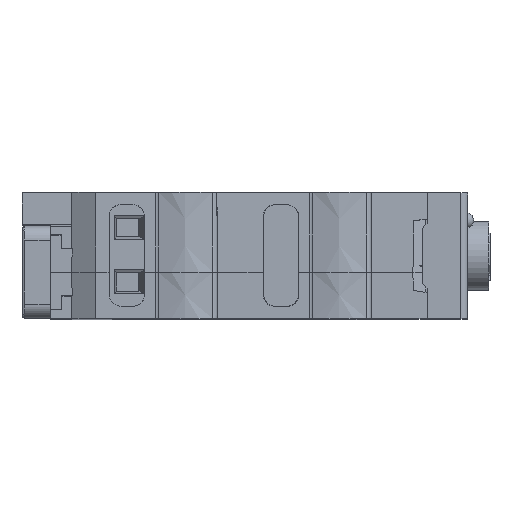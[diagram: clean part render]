
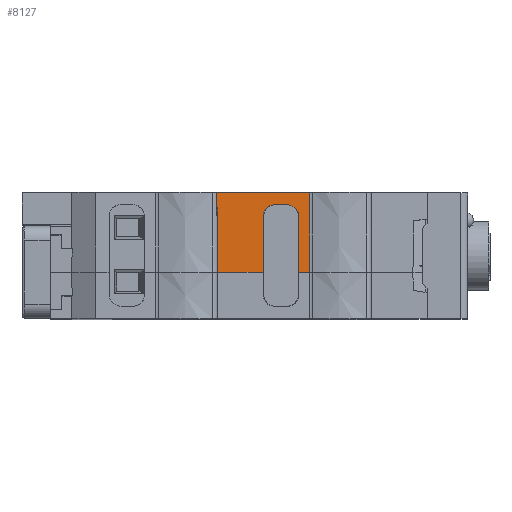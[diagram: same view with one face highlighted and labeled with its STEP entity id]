
A CAD part, top view. The second image highlights one B-rep face of the part: STEP entity #8127.
In plain terms, the highlighted planar face has unit normal (0, 0.008, 1) as drawn and (-1, 0, -0.008) by its records, which use the part's own axes.
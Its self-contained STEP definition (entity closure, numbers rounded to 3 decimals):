
#8127=ADVANCED_FACE('',(#88709),#88711,.T.);
#88709=FACE_BOUND('',#88710,.T.);
#88710=EDGE_LOOP('',(#151310,#151311,#151312,#151313,#151314,#151315,#151316,#151317,
#151318,#151319));
#88711=PLANE('',#88712);
#88712=AXIS2_PLACEMENT_3D('',#88713,#88714,#88715);
#88713=CARTESIAN_POINT('',(10.8,0.,11.25));
#88714=DIRECTION('',(-1.,0.,-0.008));
#88715=DIRECTION('',(-0.008,0.,1.));
#151310=ORIENTED_EDGE('',*,*,#210217,.F.);
#151311=ORIENTED_EDGE('',*,*,#210279,.T.);
#151312=ORIENTED_EDGE('',*,*,#209582,.T.);
#151313=ORIENTED_EDGE('',*,*,#210280,.F.);
#151314=ORIENTED_EDGE('',*,*,#209960,.F.);
#151315=ORIENTED_EDGE('',*,*,#210281,.F.);
#151316=ORIENTED_EDGE('',*,*,#210282,.T.);
#151317=ORIENTED_EDGE('',*,*,#210283,.T.);
#151318=ORIENTED_EDGE('',*,*,#210284,.T.);
#151319=ORIENTED_EDGE('',*,*,#210285,.T.);
#209582=EDGE_CURVE('',#236837,#236835,#236838,.T.);
#209960=EDGE_CURVE('',#237528,#237530,#237531,.T.);
#210217=EDGE_CURVE('',#237980,#237982,#237983,.T.);
#210279=EDGE_CURVE('',#237980,#236837,#238084,.T.);
#210280=EDGE_CURVE('',#237530,#236835,#238085,.T.);
#210281=EDGE_CURVE('',#238086,#237528,#238087,.T.);
#210282=EDGE_CURVE('',#238086,#238088,#238089,.T.);
#210283=EDGE_CURVE('',#238088,#238090,#238091,.T.);
#210284=EDGE_CURVE('',#238090,#238092,#238093,.T.);
#210285=EDGE_CURVE('',#238092,#237982,#238094,.T.);
#236835=VERTEX_POINT('',#283724);
#236837=VERTEX_POINT('',#283728);
#236838=LINE('',#283729,#283730);
#237528=VERTEX_POINT('',#285265);
#237530=VERTEX_POINT('',#285269);
#237531=LINE('',#285270,#285271);
#237980=VERTEX_POINT('',#286272);
#237982=VERTEX_POINT('',#286277);
#237983=LINE('',#286278,#286279);
#238084=LINE('',#286507,#286508);
#238085=LINE('',#286510,#286511);
#238086=VERTEX_POINT('',#286513);
#238087=LINE('',#286514,#286515);
#238088=VERTEX_POINT('',#286517);
#238089=(BOUNDED_CURVE()B_SPLINE_CURVE(3,
(#286518,#286519,#286520,#286521),
.UNSPECIFIED.,.F.,.F.)B_SPLINE_CURVE_WITH_KNOTS((4,4),
(0.,1.),
.UNSPECIFIED.)CURVE()GEOMETRIC_REPRESENTATION_ITEM()RATIONAL_B_SPLINE_CURVE((1.,
0.805,0.805,1.))REPRESENTATION_ITEM(''));
#238090=VERTEX_POINT('',#286522);
#238091=LINE('',#286523,#286524);
#238092=VERTEX_POINT('',#286526);
#238093=(BOUNDED_CURVE()B_SPLINE_CURVE(3,
(#286527,#286528,#286529,#286530),
.UNSPECIFIED.,.F.,.F.)B_SPLINE_CURVE_WITH_KNOTS((4,4),
(0.,1.),
.UNSPECIFIED.)CURVE()GEOMETRIC_REPRESENTATION_ITEM()RATIONAL_B_SPLINE_CURVE((1.,
0.805,0.805,1.))REPRESENTATION_ITEM(''));
#238094=LINE('',#286531,#286532);
#283724=CARTESIAN_POINT('',(10.888,27.412,0.));
#283728=CARTESIAN_POINT('',(10.888,40.516,0.));
#283729=CARTESIAN_POINT('',(10.888,40.516,0.));
#283730=VECTOR('',#283731,1.);
#283731=DIRECTION('',(0.,-1.,0.));
#285265=CARTESIAN_POINT('',(10.8,33.95,11.25));
#285269=CARTESIAN_POINT('',(10.8,27.5,11.25));
#285270=CARTESIAN_POINT('',(10.8,33.95,11.25));
#285271=VECTOR('',#285272,1.);
#285272=DIRECTION('',(0.,-1.,0.));
#286272=CARTESIAN_POINT('',(10.8,40.516,11.25));
#286277=CARTESIAN_POINT('',(10.8,38.95,11.25));
#286278=CARTESIAN_POINT('',(10.8,40.516,11.25));
#286279=VECTOR('',#286280,1.);
#286280=DIRECTION('',(0.,-1.,0.));
#286507=CARTESIAN_POINT('',(10.8,40.516,11.25));
#286508=VECTOR('',#286509,1.);
#286509=DIRECTION('',(0.008,0.,-1.));
#286510=CARTESIAN_POINT('',(10.8,27.5,11.25));
#286511=VECTOR('',#286512,1.);
#286512=DIRECTION('',(0.008,-0.008,-1.));
#286513=CARTESIAN_POINT('',(10.862,33.95,3.4));
#286514=CARTESIAN_POINT('',(10.862,33.95,3.4));
#286515=VECTOR('',#286516,1.);
#286516=DIRECTION('',(-0.008,0.,1.));
#286517=CARTESIAN_POINT('',(10.875,35.65,1.7));
#286518=CARTESIAN_POINT('',(10.862,33.95,3.4));
#286519=CARTESIAN_POINT('',(10.869,33.95,2.404));
#286520=CARTESIAN_POINT('',(10.875,34.654,1.7));
#286521=CARTESIAN_POINT('',(10.875,35.65,1.7));
#286522=CARTESIAN_POINT('',(10.875,37.25,1.7));
#286523=CARTESIAN_POINT('',(10.875,35.65,1.7));
#286524=VECTOR('',#286525,1.);
#286525=DIRECTION('',(0.,1.,0.));
#286526=CARTESIAN_POINT('',(10.862,38.95,3.4));
#286527=CARTESIAN_POINT('',(10.875,37.25,1.7));
#286528=CARTESIAN_POINT('',(10.875,38.246,1.7));
#286529=CARTESIAN_POINT('',(10.869,38.95,2.404));
#286530=CARTESIAN_POINT('',(10.862,38.95,3.4));
#286531=CARTESIAN_POINT('',(10.862,38.95,3.4));
#286532=VECTOR('',#286533,1.);
#286533=DIRECTION('',(-0.008,0.,1.));
